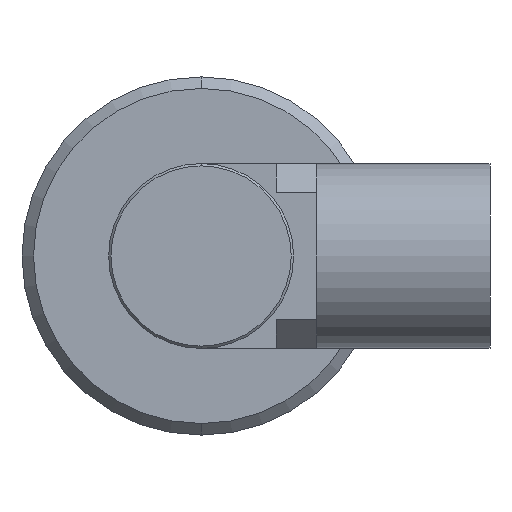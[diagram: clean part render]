
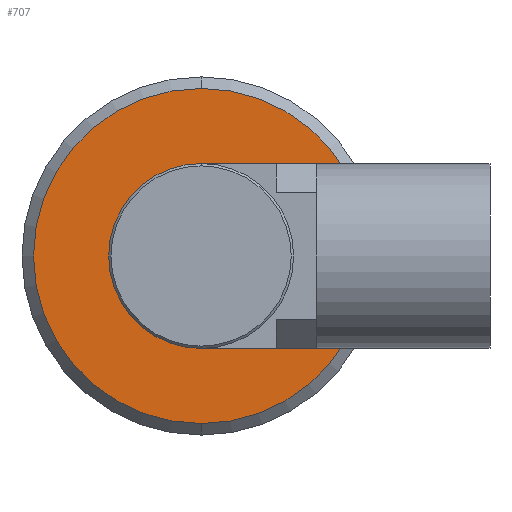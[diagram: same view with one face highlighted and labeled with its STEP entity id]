
A CAD part, left-side view. The second image highlights one B-rep face of the part: STEP entity #707.
In plain terms, the highlighted planar face has unit normal (-1, 0, 0).
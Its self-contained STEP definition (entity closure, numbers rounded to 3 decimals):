
#47 = CIRCLE ( 'NONE', #91, 14.5 ) ;
#50 = VERTEX_POINT ( 'NONE', #258 ) ;
#91 = AXIS2_PLACEMENT_3D ( 'NONE', #869, #728, #1442 ) ;
#93 = PLANE ( 'NONE',  #766 ) ;
#140 = DIRECTION ( 'NONE',  ( 0., 0., 1. ) ) ;
#196 = EDGE_CURVE ( 'NONE', #50, #1771, #1640, .T. ) ;
#213 = AXIS2_PLACEMENT_3D ( 'NONE', #1109, #1664, #1396 ) ;
#223 = EDGE_LOOP ( 'NONE', ( #1765, #1364 ) ) ;
#258 = CARTESIAN_POINT ( 'NONE',  ( -9.826, 0., -8. ) ) ;
#363 = FACE_BOUND ( 'NONE', #1776, .T. ) ;
#486 = EDGE_CURVE ( 'NONE', #947, #797, #47, .T. ) ;
#644 = DIRECTION ( 'NONE',  ( -1., 0., 0. ) ) ;
#707 = ADVANCED_FACE ( 'NONE', ( #363, #1171 ), #93, .F. ) ;
#728 = DIRECTION ( 'NONE',  ( -1., 0., 0. ) ) ;
#766 = AXIS2_PLACEMENT_3D ( 'NONE', #1488, #1764, #1760 ) ;
#791 = DIRECTION ( 'NONE',  ( 0., 0., 1. ) ) ;
#797 = VERTEX_POINT ( 'NONE', #1402 ) ;
#869 = CARTESIAN_POINT ( 'NONE',  ( -9.826, 0., 0. ) ) ;
#924 = AXIS2_PLACEMENT_3D ( 'NONE', #1598, #644, #791 ) ;
#947 = VERTEX_POINT ( 'NONE', #1604 ) ;
#951 = CIRCLE ( 'NONE', #213, 8. ) ;
#957 = AXIS2_PLACEMENT_3D ( 'NONE', #977, #1119, #140 ) ;
#959 = ORIENTED_EDGE ( 'NONE', *, *, #196, .F. ) ;
#977 = CARTESIAN_POINT ( 'NONE',  ( -9.826, 0., 0. ) ) ;
#980 = ORIENTED_EDGE ( 'NONE', *, *, #1174, .F. ) ;
#1109 = CARTESIAN_POINT ( 'NONE',  ( -9.826, 0., 0. ) ) ;
#1119 = DIRECTION ( 'NONE',  ( -1., 0., 0. ) ) ;
#1130 = CIRCLE ( 'NONE', #957, 14.5 ) ;
#1171 = FACE_OUTER_BOUND ( 'NONE', #223, .T. ) ;
#1174 = EDGE_CURVE ( 'NONE', #1771, #50, #951, .T. ) ;
#1330 = EDGE_CURVE ( 'NONE', #797, #947, #1130, .T. ) ;
#1364 = ORIENTED_EDGE ( 'NONE', *, *, #1330, .T. ) ;
#1396 = DIRECTION ( 'NONE',  ( 0., 0., 1. ) ) ;
#1402 = CARTESIAN_POINT ( 'NONE',  ( -9.826, 0., 14.5 ) ) ;
#1442 = DIRECTION ( 'NONE',  ( 0., 0., 1. ) ) ;
#1488 = CARTESIAN_POINT ( 'NONE',  ( -9.826, 14.5, 0. ) ) ;
#1598 = CARTESIAN_POINT ( 'NONE',  ( -9.826, 0., 0. ) ) ;
#1604 = CARTESIAN_POINT ( 'NONE',  ( -9.826, 0., -14.5 ) ) ;
#1640 = CIRCLE ( 'NONE', #924, 8. ) ;
#1664 = DIRECTION ( 'NONE',  ( -1., 0., 0. ) ) ;
#1690 = CARTESIAN_POINT ( 'NONE',  ( -9.826, 0., 8. ) ) ;
#1760 = DIRECTION ( 'NONE',  ( 0., 0., -1. ) ) ;
#1764 = DIRECTION ( 'NONE',  ( 1., 0., 0. ) ) ;
#1765 = ORIENTED_EDGE ( 'NONE', *, *, #486, .T. ) ;
#1771 = VERTEX_POINT ( 'NONE', #1690 ) ;
#1776 = EDGE_LOOP ( 'NONE', ( #980, #959 ) ) ;
